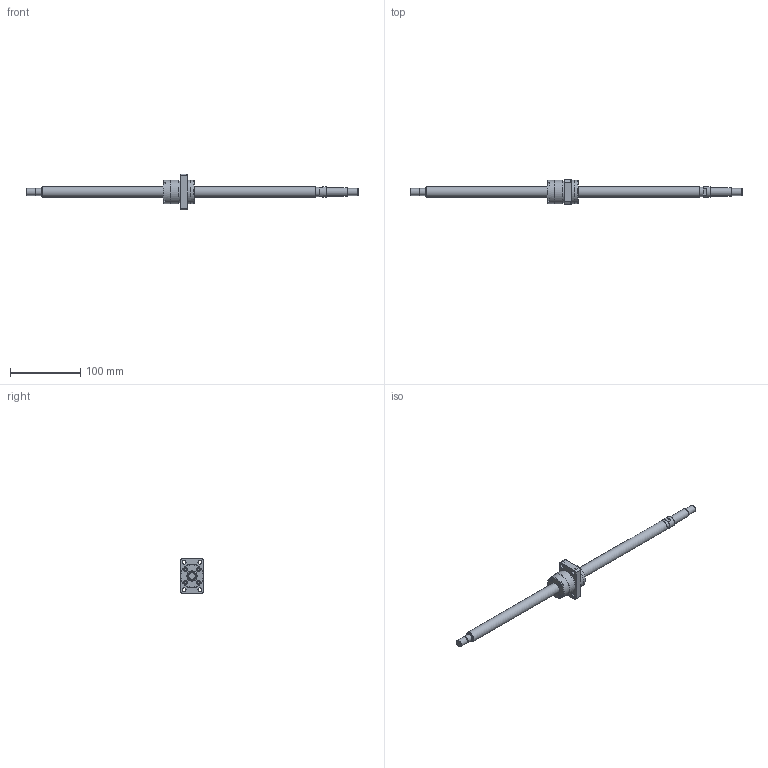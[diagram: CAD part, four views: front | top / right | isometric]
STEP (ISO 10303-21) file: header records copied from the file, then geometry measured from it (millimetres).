
FILE_DESCRIPTION(/* description */ ('STEP AP203'),/* implementation_level */ '2;1');
FILE_NAME(/* name */ 'BNK1510-5.6G0+471LC5Y(216.50)',/* time_stamp */ '2024-07-09T09:22:47+02:00',/* author */ ('License CC BY-ND 4.0'),/* organization */ ('CADENAS'),/* preprocessor_version */ 'ST-DEVELOPER v19.3',/* originating_system */ 'PARTsolutions',/* authorisation */ ' ');
FILE_SCHEMA (('CONFIG_CONTROL_DESIGN'));
Length unit declared in the file: millimetre
Products named in the file (3): BNK1510-5.6G0+471LC5Y(216.50); BNK 1510-5.6G0+471LC5Y Shaft; BNK 1510-5.6G0+471LC5Y0 Nut
Assembly tree (2 placements, depth 2):
  BNK1510-5.6G0+471LC5Y(216.50)
    BNK 1510-5.6G0+471LC5Y Shaft
    BNK 1510-5.6G0+471LC5Y0 Nut
Bounding box: 471 x 34 x 50 mm (x, y, z)
Volume: 113835.3 mm3; surface area: 33484 mm2
Topology: 2 solids, 2 shells, 137 faces, 313 edges, 202 vertices
Faces by surface type: plane 76, cylinder 35, cone 20, torus 6
Full cylindrical faces by diameter (mm): 5.188 x1, 5.5 x8, 9.5 x4, 9.6 x1, 10 x3, 12 x1, 13 x1, 15 x3, 30.6 x1, 33 x2, 34 x2
Entity records: 3729 total; most frequent: CARTESIAN_POINT 677, DIRECTION 632, ORIENTED_EDGE 534, EDGE_CURVE 267, AXIS2_PLACEMENT_3D 249, FACE_BOUND 211, EDGE_LOOP 210, VERTEX_POINT 198
